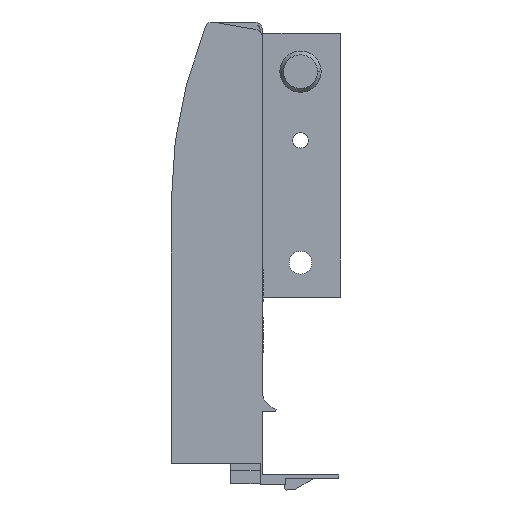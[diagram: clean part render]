
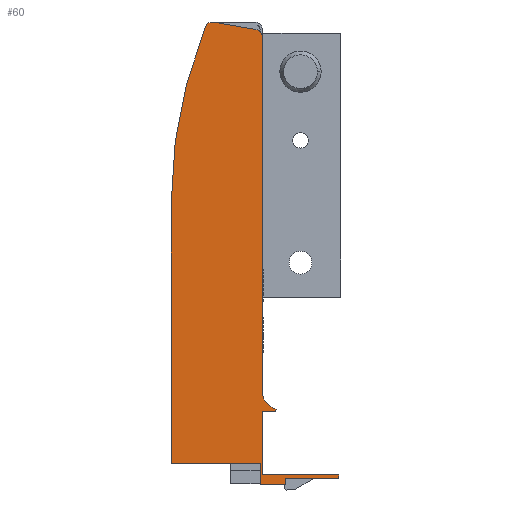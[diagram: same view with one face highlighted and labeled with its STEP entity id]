
A CAD part, front view. The second image highlights one B-rep face of the part: STEP entity #60.
In plain terms, the highlighted planar face has unit normal (0, -1, 0).
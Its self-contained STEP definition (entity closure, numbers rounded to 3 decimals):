
#60 = ADVANCED_FACE ( 'NONE', ( #1227 ), #2226, .F. ) ;
#99 = ORIENTED_EDGE ( 'NONE', *, *, #473, .F. ) ;
#108 = ORIENTED_EDGE ( 'NONE', *, *, #480, .F. ) ;
#156 = ORIENTED_EDGE ( 'NONE', *, *, #535, .F. ) ;
#163 = ORIENTED_EDGE ( 'NONE', *, *, #528, .F. ) ;
#193 = ORIENTED_EDGE ( 'NONE', *, *, #446, .F. ) ;
#209 = ORIENTED_EDGE ( 'NONE', *, *, #461, .F. ) ;
#225 = ORIENTED_EDGE ( 'NONE', *, *, #693, .F. ) ;
#229 = ORIENTED_EDGE ( 'NONE', *, *, #456, .F. ) ;
#280 = ORIENTED_EDGE ( 'NONE', *, *, #507, .F. ) ;
#282 = ORIENTED_EDGE ( 'NONE', *, *, #619, .F. ) ;
#309 = ORIENTED_EDGE ( 'NONE', *, *, #634, .F. ) ;
#319 = ORIENTED_EDGE ( 'NONE', *, *, #483, .F. ) ;
#343 = ORIENTED_EDGE ( 'NONE', *, *, #685, .F. ) ;
#355 = ORIENTED_EDGE ( 'NONE', *, *, #743, .F. ) ;
#361 = ORIENTED_EDGE ( 'NONE', *, *, #539, .F. ) ;
#383 = ORIENTED_EDGE ( 'NONE', *, *, #642, .F. ) ;
#400 = ORIENTED_EDGE ( 'NONE', *, *, #644, .F. ) ;
#413 = DIRECTION ( 'NONE',  ( -0.268, 0., -0.963 ) ) ;
#440 = AXIS2_PLACEMENT_3D ( 'NONE', #2492, #2499, #2500 ) ;
#446 = EDGE_CURVE ( 'NONE', #2627, #2668, #1289, .T. ) ;
#456 = EDGE_CURVE ( 'NONE', #2641, #2638, #1299, .T. ) ;
#461 = EDGE_CURVE ( 'NONE', #2681, #2574, #1283, .T. ) ;
#473 = EDGE_CURVE ( 'NONE', #2622, #2681, #1328, .T. ) ;
#480 = EDGE_CURVE ( 'NONE', #2589, #2630, #1333, .T. ) ;
#483 = EDGE_CURVE ( 'NONE', #2590, #2641, #1345, .T. ) ;
#494 = AXIS2_PLACEMENT_3D ( 'NONE', #2377, #2378, #2379 ) ;
#507 = EDGE_CURVE ( 'NONE', #2630, #2627, #1363, .T. ) ;
#528 = EDGE_CURVE ( 'NONE', #2647, #2578, #1398, .T. ) ;
#535 = EDGE_CURVE ( 'NONE', #2578, #2589, #1404, .T. ) ;
#539 = EDGE_CURVE ( 'NONE', #2685, #2607, #1411, .T. ) ;
#619 = EDGE_CURVE ( 'NONE', #2638, #2647, #1470, .T. ) ;
#634 = EDGE_CURVE ( 'NONE', #2591, #2590, #1507, .T. ) ;
#642 = EDGE_CURVE ( 'NONE', #2668, #2622, #1516, .T. ) ;
#644 = EDGE_CURVE ( 'NONE', #2574, #2596, #1520, .T. ) ;
#667 = AXIS2_PLACEMENT_3D ( 'NONE', #2229, #2235, #2236 ) ;
#685 = EDGE_CURVE ( 'NONE', #2607, #2654, #1526, .T. ) ;
#693 = EDGE_CURVE ( 'NONE', #2596, #2685, #838, .T. ) ;
#743 = EDGE_CURVE ( 'NONE', #2654, #2591, #909, .T. ) ;
#774 = AXIS2_PLACEMENT_3D ( 'NONE', #1683, #1692, #1693 ) ;
#780 = AXIS2_PLACEMENT_3D ( 'NONE', #1863, #1890, #1891 ) ;
#838 = LINE ( 'NONE', #1808, #839 ) ;
#839 = VECTOR ( 'NONE', #1809, 1000. ) ;
#909 = CIRCLE ( 'NONE', #780, 120.6 ) ;
#1145 = EDGE_LOOP ( 'NONE', ( #282, #229, #319, #309, #355, #343, #361, #225, #400, #209, #99, #383, #193, #280, #108, #156, #163 ) ) ;
#1227 = FACE_OUTER_BOUND ( 'NONE', #1145, .T. ) ;
#1283 = LINE ( 'NONE', #2384, #1306 ) ;
#1289 = LINE ( 'NONE', #2373, #1290 ) ;
#1290 = VECTOR ( 'NONE', #2374, 1000. ) ;
#1299 = CIRCLE ( 'NONE', #494, 2. ) ;
#1306 = VECTOR ( 'NONE', #2389, 1000. ) ;
#1328 = LINE ( 'NONE', #2414, #1329 ) ;
#1329 = VECTOR ( 'NONE', #2415, 1000. ) ;
#1333 = LINE ( 'NONE', #2422, #1340 ) ;
#1340 = VECTOR ( 'NONE', #2427, 1000. ) ;
#1345 = LINE ( 'NONE', #2432, #1346 ) ;
#1346 = VECTOR ( 'NONE', #2433, 1000. ) ;
#1363 = LINE ( 'NONE', #2455, #1364 ) ;
#1364 = VECTOR ( 'NONE', #2456, 1000. ) ;
#1390 = VECTOR ( 'NONE', #413, 1000. ) ;
#1398 = CIRCLE ( 'NONE', #440, 5. ) ;
#1404 = LINE ( 'NONE', #2506, #1390 ) ;
#1407 = VECTOR ( 'NONE', #1556, 1000. ) ;
#1411 = LINE ( 'NONE', #2698, #1407 ) ;
#1470 = LINE ( 'NONE', #1648, #1483 ) ;
#1483 = VECTOR ( 'NONE', #1655, 1000. ) ;
#1502 = VECTOR ( 'NONE', #1713, 1000. ) ;
#1507 = CIRCLE ( 'NONE', #774, 2. ) ;
#1516 = LINE ( 'NONE', #1704, #1502 ) ;
#1520 = LINE ( 'NONE', #1716, #1521 ) ;
#1521 = VECTOR ( 'NONE', #1717, 1000. ) ;
#1526 = LINE ( 'NONE', #1790, #1550 ) ;
#1550 = VECTOR ( 'NONE', #1791, 1000. ) ;
#1556 = DIRECTION ( 'NONE',  ( -1., 0., 0. ) ) ;
#1648 = CARTESIAN_POINT ( 'NONE',  ( 21.5, 0., 98.06 ) ) ;
#1655 = DIRECTION ( 'NONE',  ( 0., 0., -1. ) ) ;
#1683 = CARTESIAN_POINT ( 'NONE',  ( 8.5, 0., 100. ) ) ;
#1692 = DIRECTION ( 'NONE',  ( 0., 1., 0. ) ) ;
#1693 = DIRECTION ( 'NONE',  ( -1., 0., 0. ) ) ;
#1704 = CARTESIAN_POINT ( 'NONE',  ( 41.499, 0., -16.5 ) ) ;
#1713 = DIRECTION ( 'NONE',  ( 0., 0., -1. ) ) ;
#1716 = CARTESIAN_POINT ( 'NONE',  ( 27.599, 0., -19.1 ) ) ;
#1717 = DIRECTION ( 'NONE',  ( -1., 0., 0. ) ) ;
#1790 = CARTESIAN_POINT ( 'NONE',  ( -2.3, 0., -13.5 ) ) ;
#1791 = DIRECTION ( 'NONE',  ( 0., 0., 1. ) ) ;
#1808 = CARTESIAN_POINT ( 'NONE',  ( 20.9, 0., -19.1 ) ) ;
#1809 = DIRECTION ( 'NONE',  ( 0., 0., 1. ) ) ;
#1863 = CARTESIAN_POINT ( 'NONE',  ( 118.3, 0., 55.168 ) ) ;
#1890 = DIRECTION ( 'NONE',  ( 0., 1., 0. ) ) ;
#1891 = DIRECTION ( 'NONE',  ( -1., 0., 0. ) ) ;
#1941 = CARTESIAN_POINT ( 'NONE',  ( 27.599, 0., -19.1 ) ) ;
#1945 = CARTESIAN_POINT ( 'NONE',  ( 25.161, 0., 0.578 ) ) ;
#1956 = CARTESIAN_POINT ( 'NONE',  ( 25., 0., 0. ) ) ;
#1957 = CARTESIAN_POINT ( 'NONE',  ( 8.847, 0., 101.97 ) ) ;
#1958 = CARTESIAN_POINT ( 'NONE',  ( 6.648, 0., 100.756 ) ) ;
#1963 = CARTESIAN_POINT ( 'NONE',  ( 20.9, 0., -19.1 ) ) ;
#1974 = CARTESIAN_POINT ( 'NONE',  ( -2.3, 0., -13.5 ) ) ;
#1988 = CARTESIAN_POINT ( 'NONE',  ( 41.499, 0., -17.528 ) ) ;
#1993 = CARTESIAN_POINT ( 'NONE',  ( 21.5, 0., -16.5 ) ) ;
#1996 = CARTESIAN_POINT ( 'NONE',  ( 21.5, 0., 0. ) ) ;
#2004 = CARTESIAN_POINT ( 'NONE',  ( 21.5, 0., 98.06 ) ) ;
#2007 = CARTESIAN_POINT ( 'NONE',  ( 19.847, 0., 100.03 ) ) ;
#2013 = CARTESIAN_POINT ( 'NONE',  ( 21.5, 0., 5.395 ) ) ;
#2020 = CARTESIAN_POINT ( 'NONE',  ( -2.3, 0., 55.168 ) ) ;
#2034 = CARTESIAN_POINT ( 'NONE',  ( 41.499, 0., -16.5 ) ) ;
#2045 = CARTESIAN_POINT ( 'NONE',  ( 27.599, 0., -17.528 ) ) ;
#2048 = CARTESIAN_POINT ( 'NONE',  ( 20.9, 0., -13.5 ) ) ;
#2226 = PLANE ( 'NONE',  #667 ) ;
#2229 = CARTESIAN_POINT ( 'NONE',  ( 8.75, 0., 61.5 ) ) ;
#2235 = DIRECTION ( 'NONE',  ( 0., 1., 0. ) ) ;
#2236 = DIRECTION ( 'NONE',  ( 0., 0., 1. ) ) ;
#2373 = CARTESIAN_POINT ( 'NONE',  ( 21.5, 0., -16.5 ) ) ;
#2374 = DIRECTION ( 'NONE',  ( 1., 0., 0. ) ) ;
#2377 = CARTESIAN_POINT ( 'NONE',  ( 19.5, 0., 98.06 ) ) ;
#2378 = DIRECTION ( 'NONE',  ( 0., 1., 0. ) ) ;
#2379 = DIRECTION ( 'NONE',  ( -1., 0., 0. ) ) ;
#2384 = CARTESIAN_POINT ( 'NONE',  ( 27.599, 0., -17.528 ) ) ;
#2389 = DIRECTION ( 'NONE',  ( 0., 0., -1. ) ) ;
#2414 = CARTESIAN_POINT ( 'NONE',  ( 41.499, 0., -17.528 ) ) ;
#2415 = DIRECTION ( 'NONE',  ( -1., 0., 0. ) ) ;
#2422 = CARTESIAN_POINT ( 'NONE',  ( 25., 0., 0. ) ) ;
#2427 = DIRECTION ( 'NONE',  ( -1., 0., 0. ) ) ;
#2432 = CARTESIAN_POINT ( 'NONE',  ( 8.847, 0., 101.97 ) ) ;
#2433 = DIRECTION ( 'NONE',  ( 0.985, 0., -0.174 ) ) ;
#2455 = CARTESIAN_POINT ( 'NONE',  ( 21.5, 0., 0. ) ) ;
#2456 = DIRECTION ( 'NONE',  ( 0., 0., -1. ) ) ;
#2492 = CARTESIAN_POINT ( 'NONE',  ( 26.5, 0., 5.395 ) ) ;
#2499 = DIRECTION ( 'NONE',  ( 0., -1., 0. ) ) ;
#2500 = DIRECTION ( 'NONE',  ( -1., 0., 0. ) ) ;
#2506 = CARTESIAN_POINT ( 'NONE',  ( 25.161, 0., 0.578 ) ) ;
#2574 = VERTEX_POINT ( 'NONE', #1941 ) ;
#2578 = VERTEX_POINT ( 'NONE', #1945 ) ;
#2589 = VERTEX_POINT ( 'NONE', #1956 ) ;
#2590 = VERTEX_POINT ( 'NONE', #1957 ) ;
#2591 = VERTEX_POINT ( 'NONE', #1958 ) ;
#2596 = VERTEX_POINT ( 'NONE', #1963 ) ;
#2607 = VERTEX_POINT ( 'NONE', #1974 ) ;
#2622 = VERTEX_POINT ( 'NONE', #1988 ) ;
#2627 = VERTEX_POINT ( 'NONE', #1993 ) ;
#2630 = VERTEX_POINT ( 'NONE', #1996 ) ;
#2638 = VERTEX_POINT ( 'NONE', #2004 ) ;
#2641 = VERTEX_POINT ( 'NONE', #2007 ) ;
#2647 = VERTEX_POINT ( 'NONE', #2013 ) ;
#2654 = VERTEX_POINT ( 'NONE', #2020 ) ;
#2668 = VERTEX_POINT ( 'NONE', #2034 ) ;
#2681 = VERTEX_POINT ( 'NONE', #2045 ) ;
#2685 = VERTEX_POINT ( 'NONE', #2048 ) ;
#2698 = CARTESIAN_POINT ( 'NONE',  ( -2.3, 0., -13.5 ) ) ;
